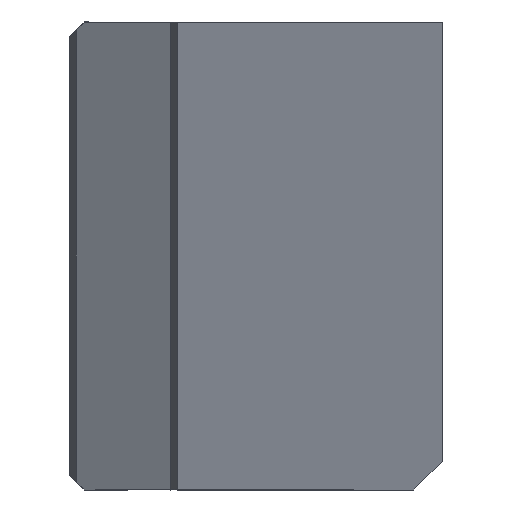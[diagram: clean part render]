
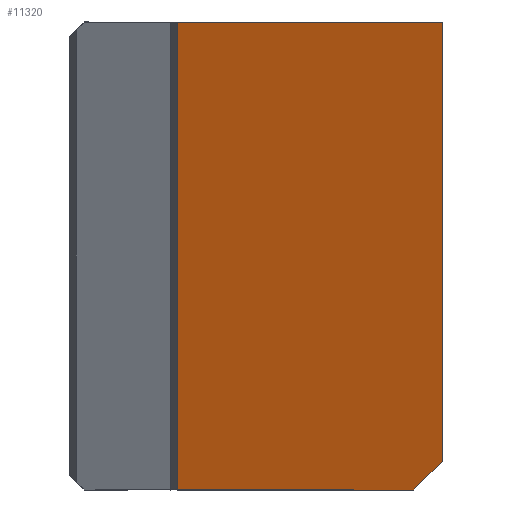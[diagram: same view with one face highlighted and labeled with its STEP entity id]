
A CAD part, left-side view. The second image highlights one B-rep face of the part: STEP entity #11320.
In plain terms, the highlighted planar face has unit normal (-0.943, 0, -0.334).
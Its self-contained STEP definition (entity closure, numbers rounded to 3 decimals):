
#1665 = CARTESIAN_POINT ( 'NONE',  ( 17.379, 3., -49. ) ) ;
#1719 = CARTESIAN_POINT ( 'NONE',  ( 0., 27.75, 0. ) ) ;
#2087 = EDGE_CURVE ( 'NONE', #24729, #35922, #31678, .T. ) ;
#2706 = LINE ( 'NONE', #9744, #8717 ) ;
#3520 = PLANE ( 'NONE',  #44068 ) ;
#3543 = CARTESIAN_POINT ( 'NONE',  ( 0., 0., 0. ) ) ;
#3551 = EDGE_CURVE ( 'NONE', #27170, #34019, #2706, .T. ) ;
#5418 = LINE ( 'NONE', #39638, #21525 ) ;
#8717 = VECTOR ( 'NONE', #44175, 1000. ) ;
#8722 = CARTESIAN_POINT ( 'NONE',  ( 16.315, 0., -46. ) ) ;
#9497 = CARTESIAN_POINT ( 'NONE',  ( 0., 39., 0. ) ) ;
#9744 = CARTESIAN_POINT ( 'NONE',  ( 17.379, 0., -49. ) ) ;
#10131 = ORIENTED_EDGE ( 'NONE', *, *, #25402, .F. ) ;
#10783 = FACE_OUTER_BOUND ( 'NONE', #19280, .T. ) ;
#11320 = ADVANCED_FACE ( 'NONE', ( #10783 ), #3520, .T. ) ;
#11609 = VERTEX_POINT ( 'NONE', #1665 ) ;
#12432 = DIRECTION ( 'NONE',  ( -0.243, -0.686, 0.686 ) ) ;
#14303 = DIRECTION ( 'NONE',  ( -0.334, 0., 0.942 ) ) ;
#17608 = DIRECTION ( 'NONE',  ( -0.942, 0., -0.334 ) ) ;
#18111 = EDGE_CURVE ( 'NONE', #11609, #34019, #33883, .T. ) ;
#18353 = CARTESIAN_POINT ( 'NONE',  ( 17.379, 27.75, -49. ) ) ;
#19280 = EDGE_LOOP ( 'NONE', ( #10131, #22884, #36422, #35942, #35749 ) ) ;
#21525 = VECTOR ( 'NONE', #22759, 1000. ) ;
#22759 = DIRECTION ( 'NONE',  ( 0., 1., 0. ) ) ;
#22884 = ORIENTED_EDGE ( 'NONE', *, *, #18111, .T. ) ;
#24729 = VERTEX_POINT ( 'NONE', #18353 ) ;
#25402 = EDGE_CURVE ( 'NONE', #11609, #24729, #5418, .T. ) ;
#25710 = VECTOR ( 'NONE', #12432, 1000. ) ;
#26605 = LINE ( 'NONE', #9497, #41257 ) ;
#27170 = VERTEX_POINT ( 'NONE', #3543 ) ;
#28121 = DIRECTION ( 'NONE',  ( -0.334, 0., 0.942 ) ) ;
#31678 = LINE ( 'NONE', #32138, #42831 ) ;
#32138 = CARTESIAN_POINT ( 'NONE',  ( 0., 27.75, 0. ) ) ;
#33883 = LINE ( 'NONE', #36860, #25710 ) ;
#34019 = VERTEX_POINT ( 'NONE', #8722 ) ;
#34765 = CARTESIAN_POINT ( 'NONE',  ( 0., 0., 0. ) ) ;
#35622 = EDGE_CURVE ( 'NONE', #35922, #27170, #26605, .T. ) ;
#35749 = ORIENTED_EDGE ( 'NONE', *, *, #2087, .F. ) ;
#35922 = VERTEX_POINT ( 'NONE', #1719 ) ;
#35942 = ORIENTED_EDGE ( 'NONE', *, *, #35622, .F. ) ;
#36422 = ORIENTED_EDGE ( 'NONE', *, *, #3551, .F. ) ;
#36860 = CARTESIAN_POINT ( 'NONE',  ( 7.675, -24.361, -21.639 ) ) ;
#37131 = DIRECTION ( 'NONE',  ( 0., -1., 0. ) ) ;
#39638 = CARTESIAN_POINT ( 'NONE',  ( 17.379, 39., -49. ) ) ;
#41257 = VECTOR ( 'NONE', #37131, 1000. ) ;
#42831 = VECTOR ( 'NONE', #14303, 1000. ) ;
#44068 = AXIS2_PLACEMENT_3D ( 'NONE', #34765, #17608, #28121 ) ;
#44175 = DIRECTION ( 'NONE',  ( 0.334, 0., -0.942 ) ) ;
